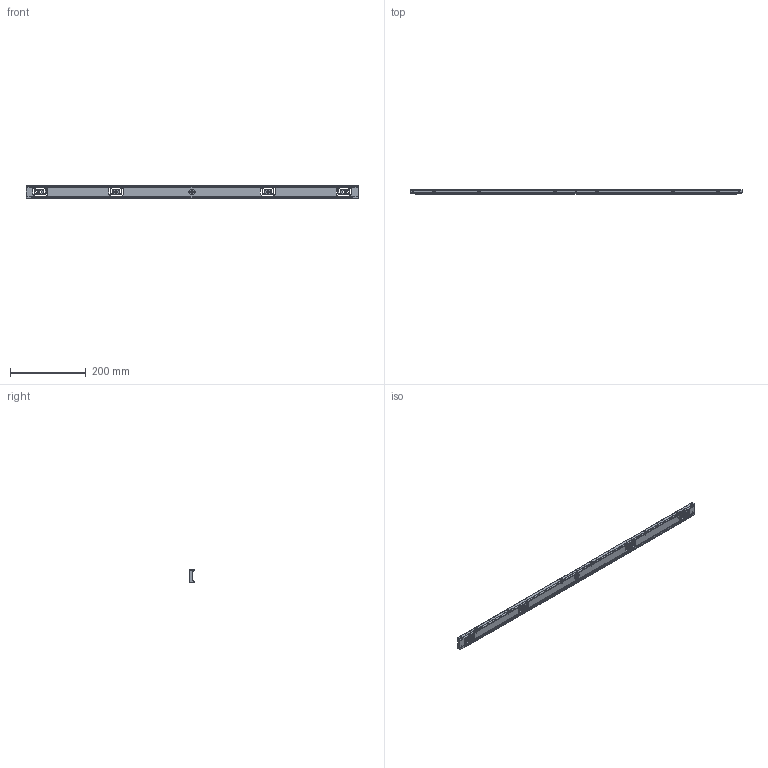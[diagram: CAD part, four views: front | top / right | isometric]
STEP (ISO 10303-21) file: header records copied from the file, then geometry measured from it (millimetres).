
FILE_DESCRIPTION(('Creo Elements/Direct Modeling STEP Export'),'2;1');
FILE_NAME('B3-770.stp','2020-10-30T13:09:19',(''),(''),'Creo Elements/Direct Modeling STEP processor for AP214 (Solid Model)','Creo Elements/Direct Modeling 19.0G 27-Nov-2017 (C) Parametric Technology GmbH','');
FILE_SCHEMA(('AUTOMOTIVE_DESIGN { 1 0 10303 214 1 1 1 1 }'));
Length unit declared in the file: millimetre
Products named in the file (2): PERFIL_SOPORTE_MECANIZADO_REGLA_SV3-770
Assembly tree (1 placements, depth 2):
  PERFIL_SOPORTE_MECANIZADO_REGLA_SV3-770
    PERFIL_SOPORTE_MECANIZADO_REGLA_SV3-770
Bounding box: 875 x 12.13 x 36.1 mm (x, y, z)
Volume: 209969.4 mm3; surface area: 110690.5 mm2
Topology: 1 solids, 1 shells, 1248 faces, 3674 edges, 2426 vertices
Faces by surface type: plane 686, cylinder 426, cone 88, torus 24, bspline 24
Entity records: 46397 total; most frequent: CARTESIAN_POINT 10202, ORIENTED_EDGE 7324, DIRECTION 6164, EDGE_CURVE 3662, VERTEX_POINT 2426, VECTOR 2080, LINE 2080, AXIS2_PLACEMENT_3D 2042
